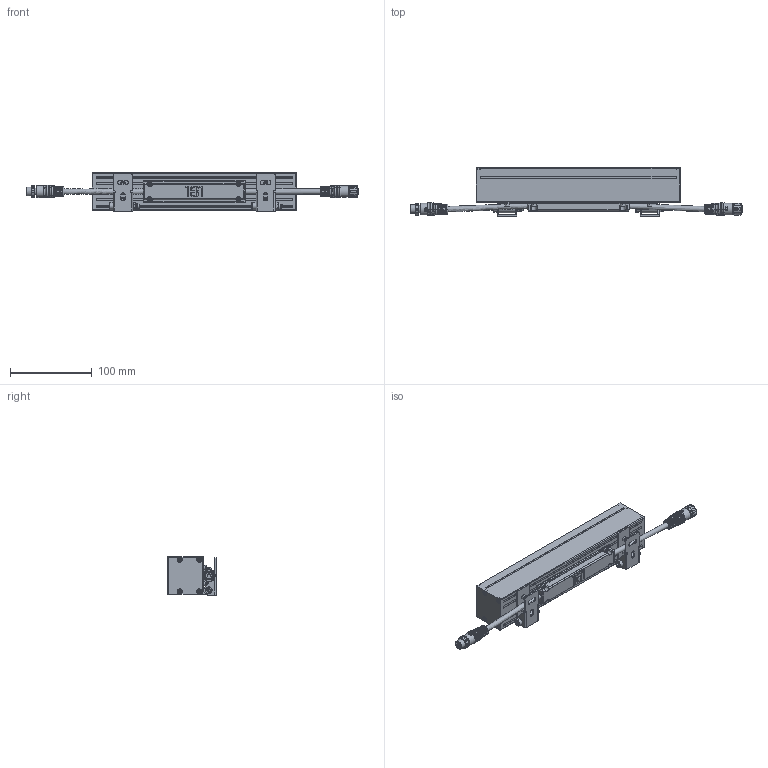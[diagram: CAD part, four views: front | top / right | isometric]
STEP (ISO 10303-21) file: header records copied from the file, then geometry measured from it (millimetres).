
FILE_DESCRIPTION (( 'STEP AP214' ), '1' );
FILE_NAME ('Linear Window - Wall.STEP', '2025-08-26T12:15:32', ( '' ), ( '' ), 'SwSTEP 2.0', 'SolidWorks 2025', '' );
FILE_SCHEMA (( 'AUTOMOTIVE_DESIGN' ));
Length unit declared in the file: millimetre
Products named in the file (7): Linear Window - Wall; M12 5p Male; Linear Window Wall - Bracket topside; Linear Window Wall - Bracket bottom; Part15^Linear Window; Linear Window - Body_Wall; M12 5p Female
Assembly tree (8 placements, depth 2):
  Linear Window - Wall
    Linear Window - Body_Wall
    Linear Window Wall - Bracket bottom  x2
    Linear Window Wall - Bracket topside  x2
    M12 5p Male
    M12 5p Female
    Part15^Linear Window
Bounding box: 407.4 x 59 x 47 mm (x, y, z)
Volume: 532892.7 mm3; surface area: 88144.6 mm2
Topology: 19 solids, 31 shells, 1621 faces, 3611 edges, 2083 vertices
Faces by surface type: plane 735, cylinder 425, cone 280, torus 133, bspline 26, sphere 22
Full cylindrical faces by diameter (mm): 2.7 x4, 10.8 x1, 12.3 x1, 14.3 x2
Entity records: 44860 total; most frequent: CARTESIAN_POINT 10644, DIRECTION 6876, ORIENTED_EDGE 6244, EDGE_CURVE 3122, AXIS2_PLACEMENT_3D 2771, VERTEX_POINT 1828, EDGE_LOOP 1556, FACE_OUTER_BOUND 1437
